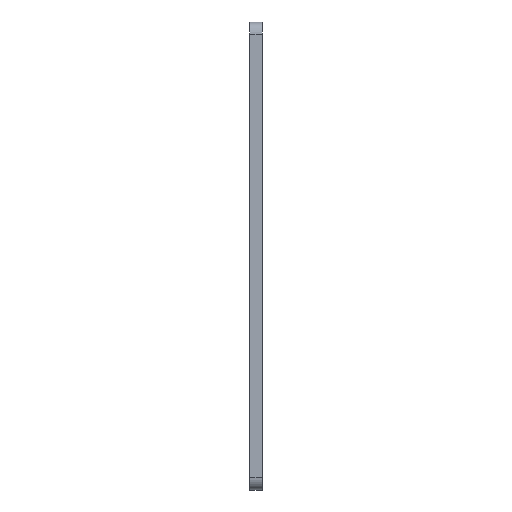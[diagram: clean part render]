
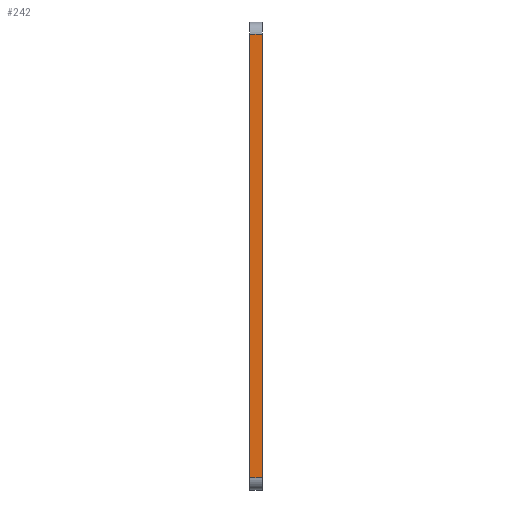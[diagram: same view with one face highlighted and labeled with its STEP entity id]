
A CAD part, left-side view. The second image highlights one B-rep face of the part: STEP entity #242.
In plain terms, the highlighted planar face has unit normal (-1, 0, 0).
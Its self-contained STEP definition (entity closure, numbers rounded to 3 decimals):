
#5 = ORIENTED_EDGE ( 'NONE', *, *, #795, .F. ) ;
#42 = EDGE_LOOP ( 'NONE', ( #654, #5, #288, #456 ) ) ;
#44 = DIRECTION ( 'NONE',  ( 0., 0., -1. ) ) ;
#52 = EDGE_CURVE ( 'NONE', #821, #824, #357, .T. ) ;
#57 = CARTESIAN_POINT ( 'NONE',  ( -12.825, 0., 129.404 ) ) ;
#60 = VERTEX_POINT ( 'NONE', #91 ) ;
#62 = CARTESIAN_POINT ( 'NONE',  ( -12.825, 0., 129.404 ) ) ;
#73 = DIRECTION ( 'NONE',  ( -1., 0., 0. ) ) ;
#81 = CARTESIAN_POINT ( 'NONE',  ( -12.825, 4., 129.404 ) ) ;
#91 = CARTESIAN_POINT ( 'NONE',  ( -12.825, 0., -9.053 ) ) ;
#135 = CARTESIAN_POINT ( 'NONE',  ( -12.825, 4., 129.404 ) ) ;
#242 = ADVANCED_FACE ( 'NONE', ( #428 ), #452, .T. ) ;
#257 = CARTESIAN_POINT ( 'NONE',  ( -12.825, 4., -9.053 ) ) ;
#288 = ORIENTED_EDGE ( 'NONE', *, *, #52, .T. ) ;
#357 = LINE ( 'NONE', #843, #493 ) ;
#359 = LINE ( 'NONE', #257, #883 ) ;
#394 = VECTOR ( 'NONE', #604, 1000. ) ;
#428 = FACE_OUTER_BOUND ( 'NONE', #42, .T. ) ;
#434 = EDGE_CURVE ( 'NONE', #824, #60, #359, .T. ) ;
#452 = PLANE ( 'NONE',  #829 ) ;
#456 = ORIENTED_EDGE ( 'NONE', *, *, #434, .T. ) ;
#493 = VECTOR ( 'NONE', #44, 1000. ) ;
#550 = DIRECTION ( 'NONE',  ( 0., 0., 1. ) ) ;
#604 = DIRECTION ( 'NONE',  ( 0., 0., -1. ) ) ;
#623 = CARTESIAN_POINT ( 'NONE',  ( -12.825, 4., -9.053 ) ) ;
#636 = VERTEX_POINT ( 'NONE', #57 ) ;
#651 = VECTOR ( 'NONE', #689, 1000. ) ;
#654 = ORIENTED_EDGE ( 'NONE', *, *, #655, .F. ) ;
#655 = EDGE_CURVE ( 'NONE', #636, #60, #735, .T. ) ;
#676 = DIRECTION ( 'NONE',  ( 0., -1., 0. ) ) ;
#689 = DIRECTION ( 'NONE',  ( 0., -1., 0. ) ) ;
#735 = LINE ( 'NONE', #62, #394 ) ;
#795 = EDGE_CURVE ( 'NONE', #821, #636, #841, .T. ) ;
#821 = VERTEX_POINT ( 'NONE', #81 ) ;
#824 = VERTEX_POINT ( 'NONE', #623 ) ;
#829 = AXIS2_PLACEMENT_3D ( 'NONE', #852, #73, #550 ) ;
#841 = LINE ( 'NONE', #135, #651 ) ;
#843 = CARTESIAN_POINT ( 'NONE',  ( -12.825, 4., 129.404 ) ) ;
#852 = CARTESIAN_POINT ( 'NONE',  ( -12.825, 4., 129.404 ) ) ;
#883 = VECTOR ( 'NONE', #676, 1000. ) ;
